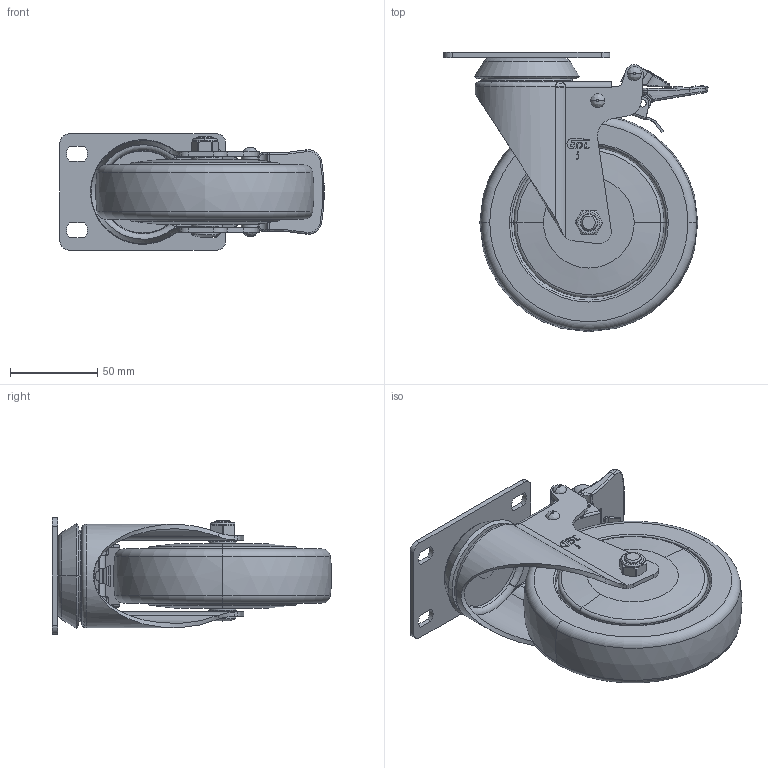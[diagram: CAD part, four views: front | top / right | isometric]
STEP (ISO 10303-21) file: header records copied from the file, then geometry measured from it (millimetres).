
FILE_DESCRIPTION((''),'2;1');
FILE_NAME('57225H-575-77_ASM','2021-01-05T',('lenovo'),(''),'PRO/ENGINEER BY PARAMETRIC TECHNOLOGY CORPORATION, 2010280','PRO/ENGINEER BY PARAMETRIC TECHNOLOGY CORPORATION, 2010280','');
FILE_SCHEMA(('CONFIG_CONTROL_DESIGN'));
Length unit declared in the file: millimetre
Products named in the file (10): 5710-201; 5725-321; 5720-211; 575-77; 5710-020; 5710-031; 570-64OFF; 5734-401; 571-64ON; 57225H-575-77_ASM
Assembly tree (9 placements, depth 2):
  57225H-575-77_ASM
    5710-201
    5725-321
    5720-211
    575-77
    5710-020
    5710-031
    570-64OFF
    5734-401
    571-64ON
Bounding box: 151.29 x 159.93 x 66.5 mm (x, y, z)
Volume: 498826.7 mm3; surface area: 111019.5 mm2
Topology: 9 solids, 9 shells, 810 faces, 2115 edges, 1340 vertices
Faces by surface type: plane 411, cylinder 203, bspline 78, cone 64, torus 50, sphere 4
Entity records: 28390 total; most frequent: CARTESIAN_POINT 8670, ORIENTED_EDGE 4218, DIRECTION 3906, EDGE_CURVE 2109, AXIS2_PLACEMENT_3D 1359, VERTEX_POINT 1338, VECTOR 1188, LINE 1188
